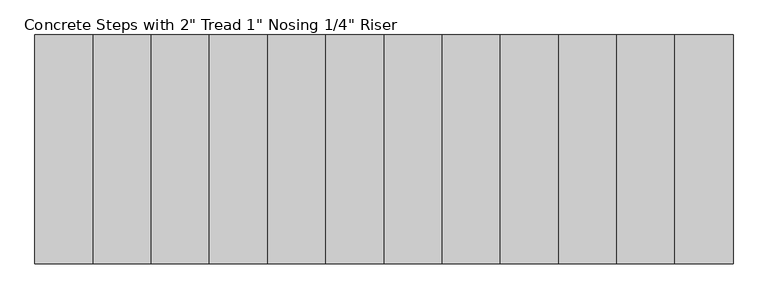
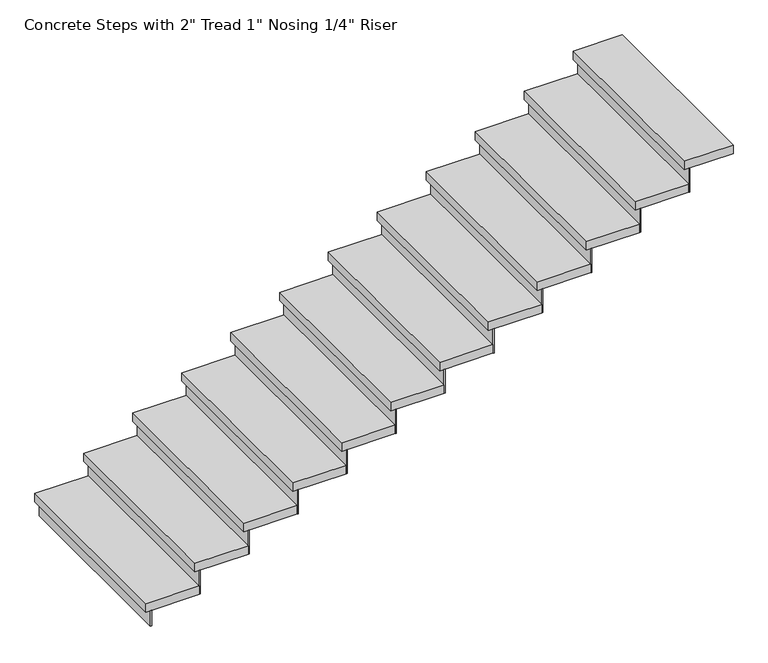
"""IFC4 building model written with IfcOpenShell, lengths in millimetres: stair flight geometry."""

from ifc_helpers import new_model, si_unit, frame, origin, origin_with_axes, place, context, project, spatial, polyline, outline, extrude, source, transform, mapped, element, save


def stair_flight_6cd5c80f(model_context):
    return source(origin(), model_context, "Body", "SweptSolid", [
        extrude(outline(polyline([(-14096.7313244, -18551.5554387), (-14103.0813244, -18551.5554387), (-14103.0813244, -17453.1578387), (-14096.7313244, -17453.1578387), (-14096.7313244, -18551.5554387)])), origin_with_axes(), (0.0, 0.0, 1.0), 94.3428571),
        extrude(outline(polyline([(-13823.6813244, -17453.1578387), (-13823.6813244, -18551.5554387), (-14128.4813244, -18551.5554387), (-14128.4813244, -17453.1578387), (-13823.6813244, -17453.1578387)])), frame((0.0, 0.0, 94.3428571), z_axis=(0.0, 0.0, 1.0), x_axis=(1.0, 0.0, 0.0)), (0.0, 0.0, 1.0), 50.8),
        extrude(outline(polyline([(-13817.3313244, -18551.5554387), (-13823.6813244, -18551.5554387), (-13823.6813244, -17453.1578387), (-13817.3313244, -17453.1578387), (-13817.3313244, -18551.5554387)])), frame((0.0, 0.0, 94.3428571), z_axis=(0.0, 0.0, 1.0), x_axis=(1.0, 0.0, 0.0)), (0.0, 0.0, 1.0), 145.1428571),
        extrude(outline(polyline([(-13544.2813244, -17453.1578387), (-13544.2813244, -18551.5554387), (-13849.0813244, -18551.5554387), (-13849.0813244, -17453.1578387), (-13544.2813244, -17453.1578387)])), frame((0.0, 0.0, 239.4857143), z_axis=(0.0, 0.0, 1.0), x_axis=(1.0, 0.0, 0.0)), (0.0, 0.0, 1.0), 50.8),
        extrude(outline(polyline([(-13537.9313244, -18551.5554387), (-13544.2813244, -18551.5554387), (-13544.2813244, -17453.1578387), (-13537.9313244, -17453.1578387), (-13537.9313244, -18551.5554387)])), frame((0.0, 0.0, 239.4857143), z_axis=(0.0, 0.0, 1.0), x_axis=(1.0, 0.0, 0.0)), (0.0, 0.0, 1.0), 145.1428571),
        extrude(outline(polyline([(-13264.8813244, -17453.1578387), (-13264.8813244, -18551.5554387), (-13569.6813244, -18551.5554387), (-13569.6813244, -17453.1578387), (-13264.8813244, -17453.1578387)])), frame((0.0, 0.0, 384.6285714), z_axis=(0.0, 0.0, 1.0), x_axis=(1.0, 0.0, 0.0)), (0.0, 0.0, 1.0), 50.8),
        extrude(outline(polyline([(-13258.5313244, -18551.5554387), (-13264.8813244, -18551.5554387), (-13264.8813244, -17453.1578387), (-13258.5313244, -17453.1578387), (-13258.5313244, -18551.5554387)])), frame((0.0, 0.0, 384.6285714), z_axis=(0.0, 0.0, 1.0), x_axis=(1.0, 0.0, 0.0)), (0.0, 0.0, 1.0), 145.1428571),
        extrude(outline(polyline([(-12985.4813244, -17453.1578387), (-12985.4813244, -18551.5554387), (-13290.2813244, -18551.5554387), (-13290.2813244, -17453.1578387), (-12985.4813244, -17453.1578387)])), frame((0.0, 0.0, 529.7714286), z_axis=(0.0, 0.0, 1.0), x_axis=(1.0, 0.0, 0.0)), (0.0, 0.0, 1.0), 50.8),
        extrude(outline(polyline([(-12979.1313244, -18551.5554387), (-12985.4813244, -18551.5554387), (-12985.4813244, -17453.1578387), (-12979.1313244, -17453.1578387), (-12979.1313244, -18551.5554387)])), frame((0.0, 0.0, 529.7714286), z_axis=(0.0, 0.0, 1.0), x_axis=(1.0, 0.0, 0.0)), (0.0, 0.0, 1.0), 145.1428571),
        extrude(outline(polyline([(-12706.0813244, -17453.1578387), (-12706.0813244, -18551.5554387), (-13010.8813244, -18551.5554387), (-13010.8813244, -17453.1578387), (-12706.0813244, -17453.1578387)])), frame((0.0, 0.0, 674.9142857), z_axis=(0.0, 0.0, 1.0), x_axis=(1.0, 0.0, 0.0)), (0.0, 0.0, 1.0), 50.8),
        extrude(outline(polyline([(-12699.7313244, -18551.5554387), (-12706.0813244, -18551.5554387), (-12706.0813244, -17453.1578387), (-12699.7313244, -17453.1578387), (-12699.7313244, -18551.5554387)])), frame((0.0, 0.0, 674.9142857), z_axis=(0.0, 0.0, 1.0), x_axis=(1.0, 0.0, 0.0)), (0.0, 0.0, 1.0), 145.1428571),
        extrude(outline(polyline([(-12426.6813244, -17453.1578387), (-12426.6813244, -18551.5554387), (-12731.4813244, -18551.5554387), (-12731.4813244, -17453.1578387), (-12426.6813244, -17453.1578387)])), frame((0.0, 0.0, 820.0571429), z_axis=(0.0, 0.0, 1.0), x_axis=(1.0, 0.0, 0.0)), (0.0, 0.0, 1.0), 50.8),
        extrude(outline(polyline([(-12420.3313244, -18551.5554387), (-12426.6813244, -18551.5554387), (-12426.6813244, -17453.1578387), (-12420.3313244, -17453.1578387), (-12420.3313244, -18551.5554387)])), frame((0.0, 0.0, 820.0571429), z_axis=(0.0, 0.0, 1.0), x_axis=(1.0, 0.0, 0.0)), (0.0, 0.0, 1.0), 145.1428571),
        extrude(outline(polyline([(-12147.2813244, -17453.1578387), (-12147.2813244, -18551.5554387), (-12452.0813244, -18551.5554387), (-12452.0813244, -17453.1578387), (-12147.2813244, -17453.1578387)])), frame((0.0, 0.0, 965.2), z_axis=(0.0, 0.0, 1.0), x_axis=(1.0, 0.0, 0.0)), (0.0, 0.0, 1.0), 50.8),
        extrude(outline(polyline([(-12140.9313244, -18551.5554387), (-12147.2813244, -18551.5554387), (-12147.2813244, -17453.1578387), (-12140.9313244, -17453.1578387), (-12140.9313244, -18551.5554387)])), frame((0.0, 0.0, 965.2), z_axis=(0.0, 0.0, 1.0), x_axis=(1.0, 0.0, 0.0)), (0.0, 0.0, 1.0), 145.1428571),
        extrude(outline(polyline([(-11867.8813244, -17453.1578387), (-11867.8813244, -18551.5554387), (-12172.6813244, -18551.5554387), (-12172.6813244, -17453.1578387), (-11867.8813244, -17453.1578387)])), frame((0.0, 0.0, 1110.3428571), z_axis=(0.0, 0.0, 1.0), x_axis=(1.0, 0.0, 0.0)), (0.0, 0.0, 1.0), 50.8),
        extrude(outline(polyline([(-11861.5313244, -18551.5554387), (-11867.8813244, -18551.5554387), (-11867.8813244, -17453.1578387), (-11861.5313244, -17453.1578387), (-11861.5313244, -18551.5554387)])), frame((0.0, 0.0, 1110.3428571), z_axis=(0.0, 0.0, 1.0), x_axis=(1.0, 0.0, 0.0)), (0.0, 0.0, 1.0), 145.1428571),
        extrude(outline(polyline([(-11588.4813244, -17453.1578387), (-11588.4813244, -18551.5554387), (-11893.2813244, -18551.5554387), (-11893.2813244, -17453.1578387), (-11588.4813244, -17453.1578387)])), frame((0.0, 0.0, 1255.4857143), z_axis=(0.0, 0.0, 1.0), x_axis=(1.0, 0.0, 0.0)), (0.0, 0.0, 1.0), 50.8),
        extrude(outline(polyline([(-11582.1313244, -18551.5554387), (-11588.4813244, -18551.5554387), (-11588.4813244, -17453.1578387), (-11582.1313244, -17453.1578387), (-11582.1313244, -18551.5554387)])), frame((0.0, 0.0, 1255.4857143), z_axis=(0.0, 0.0, 1.0), x_axis=(1.0, 0.0, 0.0)), (0.0, 0.0, 1.0), 145.1428571),
        extrude(outline(polyline([(-11309.0813244, -17453.1578387), (-11309.0813244, -18551.5554387), (-11613.8813244, -18551.5554387), (-11613.8813244, -17453.1578387), (-11309.0813244, -17453.1578387)])), frame((0.0, 0.0, 1400.6285714), z_axis=(0.0, 0.0, 1.0), x_axis=(1.0, 0.0, 0.0)), (0.0, 0.0, 1.0), 50.8),
        extrude(outline(polyline([(-11302.7313244, -18551.5554387), (-11309.0813244, -18551.5554387), (-11309.0813244, -17453.1578387), (-11302.7313244, -17453.1578387), (-11302.7313244, -18551.5554387)])), frame((0.0, 0.0, 1400.6285714), z_axis=(0.0, 0.0, 1.0), x_axis=(1.0, 0.0, 0.0)), (0.0, 0.0, 1.0), 145.1428571),
        extrude(outline(polyline([(-11029.6813244, -17453.1578387), (-11029.6813244, -18551.5554387), (-11334.4813244, -18551.5554387), (-11334.4813244, -17453.1578387), (-11029.6813244, -17453.1578387)])), frame((0.0, 0.0, 1545.7714286), z_axis=(0.0, 0.0, 1.0), x_axis=(1.0, 0.0, 0.0)), (0.0, 0.0, 1.0), 50.8),
        extrude(outline(polyline([(-11023.3313244, -18551.5554387), (-11029.6813244, -18551.5554387), (-11029.6813244, -17453.1578387), (-11023.3313244, -17453.1578387), (-11023.3313244, -18551.5554387)])), frame((0.0, 0.0, 1545.7714286), z_axis=(0.0, 0.0, 1.0), x_axis=(1.0, 0.0, 0.0)), (0.0, 0.0, 1.0), 145.1428571),
        extrude(outline(polyline([(-10775.6813244, -17453.1578387), (-10775.6813244, -18551.5554387), (-11055.0813244, -18551.5554387), (-11055.0813244, -17453.1578387), (-10775.6813244, -17453.1578387)])), frame((0.0, 0.0, 1690.9142857), z_axis=(0.0, 0.0, 1.0), x_axis=(1.0, 0.0, 0.0)), (0.0, 0.0, 1.0), 50.8),
    ])


if __name__ == "__main__":
    model = new_model("IFC4")
    model_context = context("Model", 3, world=origin())
    ifc_project = project(units=[si_unit("LENGTHUNIT", "METRE", prefix="MILLI")], contexts=[model_context])
    site = spatial("IfcSite", under=ifc_project)
    building = spatial("IfcBuilding", under=site)
    placement = place(None, origin())
    stair_flight_shape = stair_flight_6cd5c80f(model_context)
    element("IfcStairFlight", 1, ObjectType="Concrete Steps with 2\" Tread 1\" Nosing 1/4\" Riser", at=placement, inside=building, context=model_context, shape_type="MappedRepresentation", body=[
        mapped(stair_flight_shape, transform((0.0, 0.0, 0.0), x_axis=(1.0, 0.0, 0.0), y_axis=(0.0, 1.0, 0.0), z_axis=(0.0, 0.0, 1.0))),
    ])
    save(model, "model.ifc")
